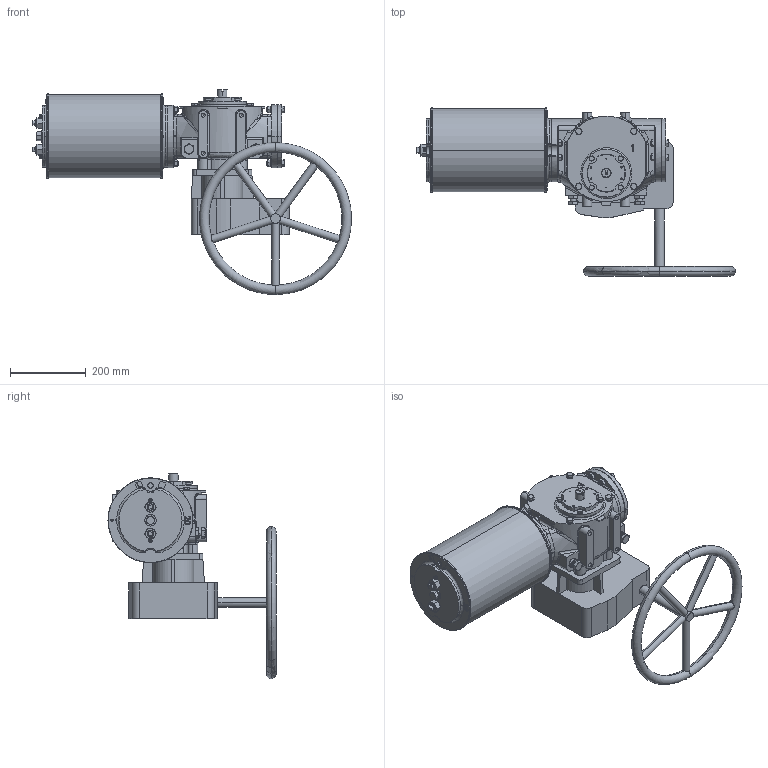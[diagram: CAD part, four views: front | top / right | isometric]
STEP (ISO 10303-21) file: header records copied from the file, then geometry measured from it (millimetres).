
FILE_DESCRIPTION (( 'STEP AP203' ), '1' );
FILE_NAME ('VTS1-200-MW.STEP', '2023-01-01T07:39:57', ( '' ), ( '' ), 'SwSTEP 2.0', 'SolidWorks 2020', '' );
FILE_SCHEMA (( 'CONFIG_CONTROL_DESIGN' ));
Length unit declared in the file: millimetre
Products named in the file (1): VTS1-200-MW
Bounding box: 839.5 x 442.5 x 540 mm (x, y, z)
Volume: 27129416.6 mm3; surface area: 1304209.8 mm2
Topology: 8 solids, 11 shells, 1750 faces, 4670 edges, 3005 vertices
Faces by surface type: plane 710, cylinder 510, cone 329, bspline 197, torus 4
Entity records: 84013 total; most frequent: CARTESIAN_POINT 43991, ORIENTED_EDGE 9236, DIRECTION 6978, EDGE_CURVE 4618, VERTEX_POINT 3005, AXIS2_PLACEMENT_3D 2589, EDGE_LOOP 1927, LINE 1800
